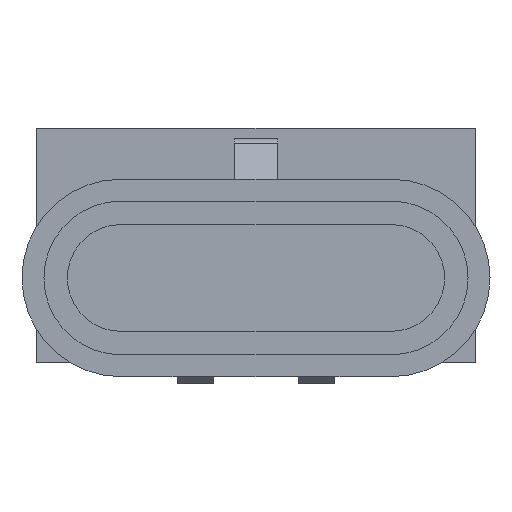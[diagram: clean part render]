
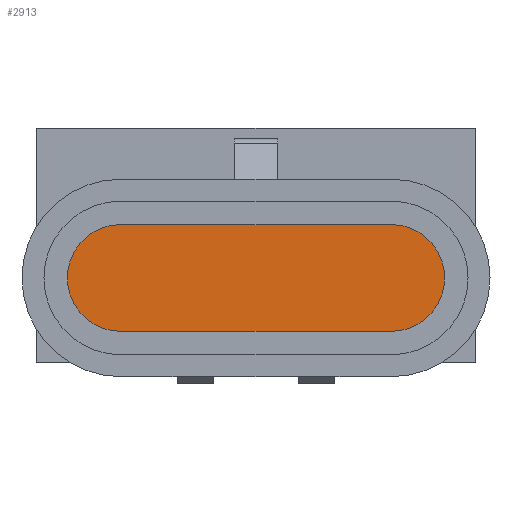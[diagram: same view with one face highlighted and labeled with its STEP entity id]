
A CAD part, front view. The second image highlights one B-rep face of the part: STEP entity #2913.
In plain terms, the highlighted planar face has unit normal (0, -1, 0) as drawn and (0, 0, -1) by its records, which use the part's own axes.
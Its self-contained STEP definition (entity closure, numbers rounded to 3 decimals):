
#166=LINE('',#4553,#416);
#170=LINE('',#4565,#420);
#416=VECTOR('',#3673,18.5);
#420=VECTOR('',#3685,18.5);
#593=PLANE('',#3145);
#755=FACE_OUTER_BOUND('',#939,.T.);
#939=EDGE_LOOP('',(#2185,#2186,#2187,#2188));
#1119=CIRCLE('',#3140,3.65);
#1121=CIRCLE('',#3144,3.65);
#1322=VERTEX_POINT('',#4550);
#1323=VERTEX_POINT('',#4552);
#1325=VERTEX_POINT('',#4558);
#1327=VERTEX_POINT('',#4564);
#1639=EDGE_CURVE('',#1323,#1322,#166,.T.);
#1642=EDGE_CURVE('',#1325,#1323,#1119,.T.);
#1645=EDGE_CURVE('',#1327,#1325,#170,.T.);
#1648=EDGE_CURVE('',#1322,#1327,#1121,.T.);
#2185=ORIENTED_EDGE('',*,*,#1642,.T.);
#2186=ORIENTED_EDGE('',*,*,#1639,.T.);
#2187=ORIENTED_EDGE('',*,*,#1648,.T.);
#2188=ORIENTED_EDGE('',*,*,#1645,.T.);
#2913=ADVANCED_FACE('',(#755),#593,.F.);
#3140=AXIS2_PLACEMENT_3D('',#4559,#3679,#3680);
#3144=AXIS2_PLACEMENT_3D('',#4569,#3691,#3692);
#3145=AXIS2_PLACEMENT_3D('',#4570,#3693,#3694);
#3673=DIRECTION('',(1.,0.,0.));
#3679=DIRECTION('center_axis',(0.,0.,-1.));
#3680=DIRECTION('ref_axis',(1.,0.,0.));
#3685=DIRECTION('',(-1.,0.,0.));
#3691=DIRECTION('center_axis',(0.,0.,-1.));
#3692=DIRECTION('ref_axis',(1.,0.,0.));
#3693=DIRECTION('center_axis',(0.,0.,1.));
#3694=DIRECTION('ref_axis',(1.,0.,0.));
#4550=CARTESIAN_POINT('',(9.25,-2.1,-59.5));
#4552=CARTESIAN_POINT('',(-9.25,-2.1,-59.5));
#4553=CARTESIAN_POINT('',(-9.25,-2.1,-59.5));
#4558=CARTESIAN_POINT('',(-9.25,-9.4,-59.5));
#4559=CARTESIAN_POINT('Origin',(-9.25,-5.75,-59.5));
#4564=CARTESIAN_POINT('',(9.25,-9.4,-59.5));
#4565=CARTESIAN_POINT('',(9.25,-9.4,-59.5));
#4569=CARTESIAN_POINT('Origin',(9.25,-5.75,-59.5));
#4570=CARTESIAN_POINT('Origin',(-9.25,-5.75,-59.5));
